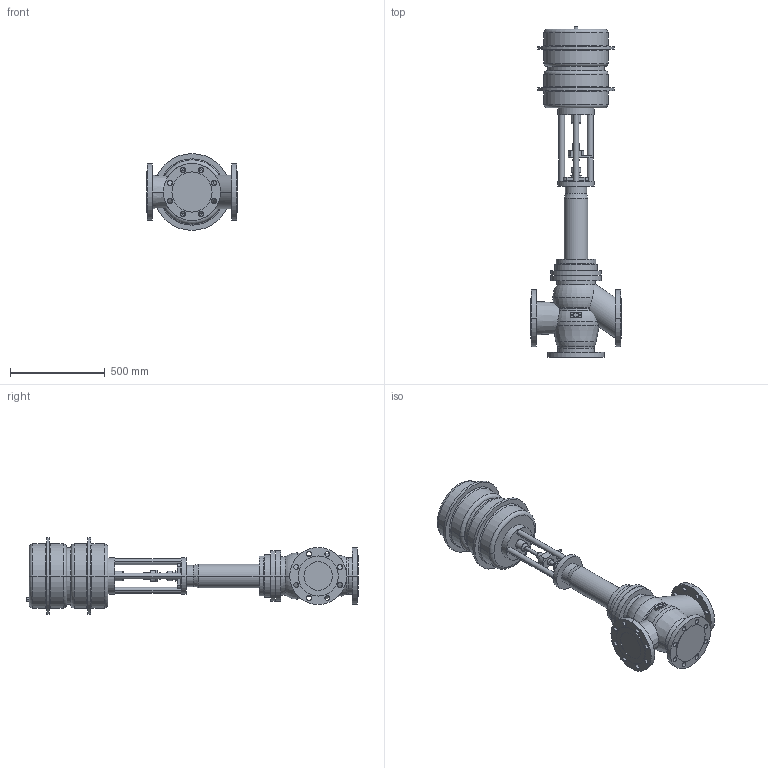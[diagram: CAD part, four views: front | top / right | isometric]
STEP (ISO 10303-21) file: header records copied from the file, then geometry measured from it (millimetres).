
FILE_DESCRIPTION(('OneSpaceDesigner STEP Export'),'2;1');
FILE_NAME('c000002431.stp','2006-09-21T 9:38:03',(''),(''),'OneSpace Designer STEP processor for AP214 (Solid Model)','OneSpace Designer 13.20A 18-Aug-2005 (C) CoCreate Software GmbH','');
FILE_SCHEMA(('AUTOMOTIVE_DESIGN { 1 0 10303 214 1 1 1 1 }'));
Length unit declared in the file: millimetre
Products named in the file (2): 1; 2
Bounding box: 480 x 1751.5 x 405 mm (x, y, z)
Volume: 77075048.8 mm3; surface area: 2269718.3 mm2
Topology: 2 solids, 2 shells, 284 faces, 681 edges, 445 vertices
Faces by surface type: cylinder 148, plane 94, torus 34, cone 8
Entity records: 7469 total; most frequent: CARTESIAN_POINT 1429, ORIENTED_EDGE 1362, DIRECTION 1084, EDGE_CURVE 681, VERTEX_POINT 445, AXIS2_PLACEMENT_3D 404, EDGE_LOOP 376, FACE_OUTER_BOUND 284
